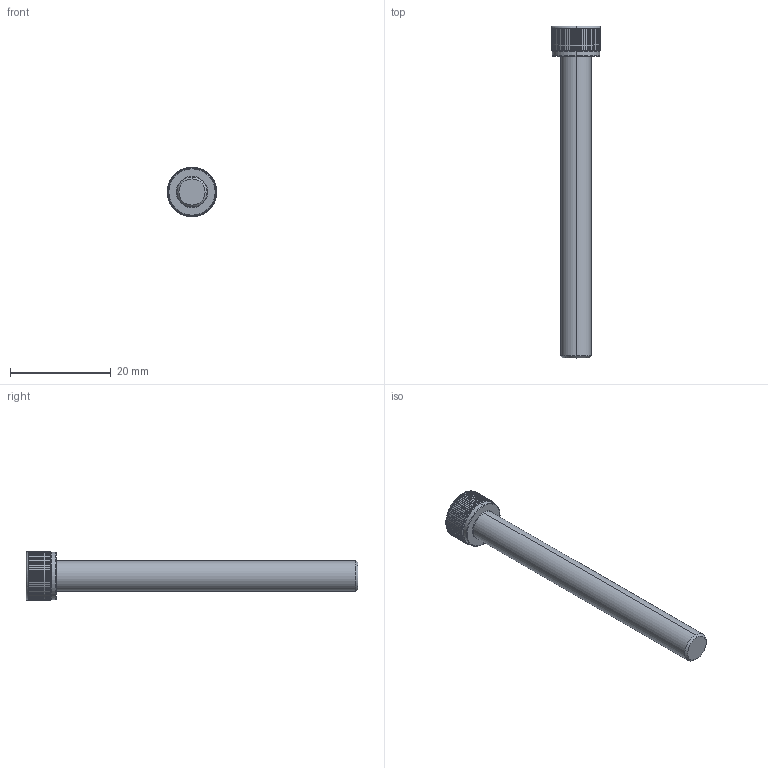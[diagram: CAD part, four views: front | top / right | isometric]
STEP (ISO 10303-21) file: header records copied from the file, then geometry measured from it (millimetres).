
FILE_DESCRIPTION (( 'STEP AP203' ), '1' );
FILE_NAME ('LGDT-304-M6x60.STEP', '2026-08-10T04:52:12', ( '' ), ( '' ), 'SwSTEP 2.0', 'SolidWorks 2020', '' );
FILE_SCHEMA (( 'CONFIG_CONTROL_DESIGN' ));
Length unit declared in the file: millimetre
Products named in the file (1): LGDT-304-M6x60
Bounding box: 9.8 x 66 x 9.8 mm (x, y, z)
Volume: 2063.2 mm3; surface area: 1508.7 mm2
Topology: 1 solids, 1 shells, 204 faces, 576 edges, 376 vertices
Faces by surface type: cylinder 175, cone 11, plane 10, torus 8
Entity records: 8367 total; most frequent: CARTESIAN_POINT 3208, ORIENTED_EDGE 1152, DIRECTION 988, EDGE_CURVE 576, AXIS2_PLACEMENT_3D 398, VERTEX_POINT 376, EDGE_LOOP 206, ADVANCED_FACE 204
